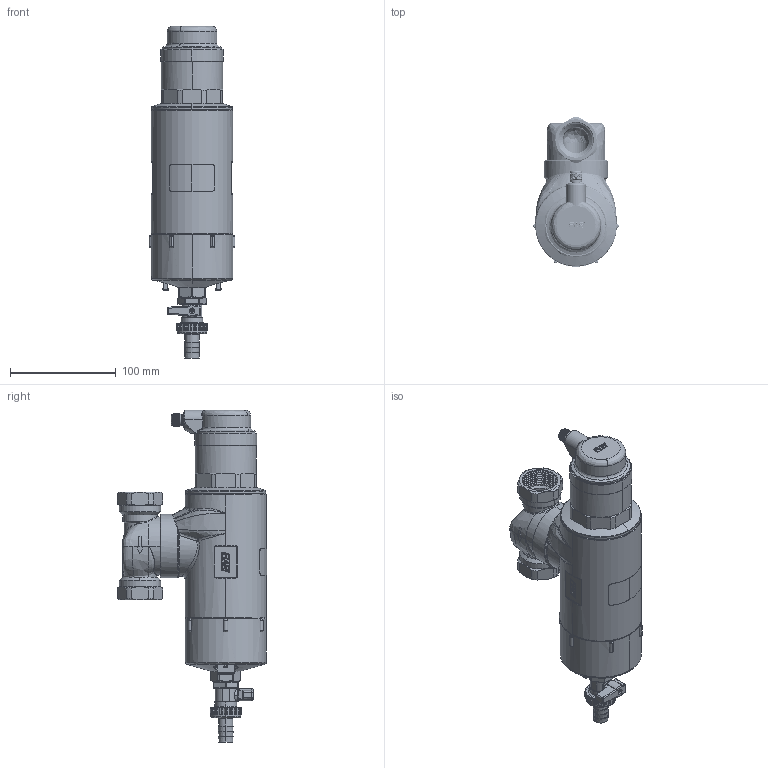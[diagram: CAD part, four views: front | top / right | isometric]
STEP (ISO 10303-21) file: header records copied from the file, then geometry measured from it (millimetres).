
FILE_DESCRIPTION (( 'STEP AP214' ), '1' );
FILE_NAME ('7773220.STEP', '2022-05-09T11:45:24', ( '' ), ( '' ), 'SwSTEP 2.0', 'SolidWorks 2021', '' );
FILE_SCHEMA (( 'AUTOMOTIVE_DESIGN' ));
Length unit declared in the file: millimetre
Products named in the file (22): 131mtt; 580mnm_F; 200lemD; 8350 635; 1569trm_giallo; 4627asb; 1500trm_giallo; 2506asb; 4316asb; 004stg; 481mnm_F; 7773220; 1508trm_giallo; 8350 1115; 8350 4445; 2509asb; 1650trm_giallo; 581mnm_F; 3447 12; 1509trm_giallo; Loctite 243_12; 227lem
Assembly tree (25 placements, depth 4):
  7773220
    2509asb
      2506asb
        481mnm_F
        8350 1115
    1508trm_giallo
    1509trm_giallo
    131mtt  x2
    8350 4445  x2
    8350 635  x2
    4316asb
      004stg
      580mnm_F
    200lemD
    1569trm_giallo
    1650trm_giallo
    1500trm_giallo
    3447 12
    Loctite 243_12
    4627asb  x2
      581mnm_F
      227lem
Bounding box: 81 x 141.45 x 314.17 mm (x, y, z)
Volume: 355005.9 mm3; surface area: 237439.2 mm2
Topology: 24 solids, 24 shells, 3184 faces, 7965 edges, 4837 vertices
Faces by surface type: bspline 1478, cylinder 1012, plane 380, cone 314
Entity records: 206667 total; most frequent: CARTESIAN_POINT 145749, ORIENTED_EDGE 15340, DIRECTION 7868, EDGE_CURVE 7670, VERTEX_POINT 4675, B_SPLINE_CURVE_WITH_KNOTS 4161, EDGE_LOOP 3189, FACE_OUTER_BOUND 3094
